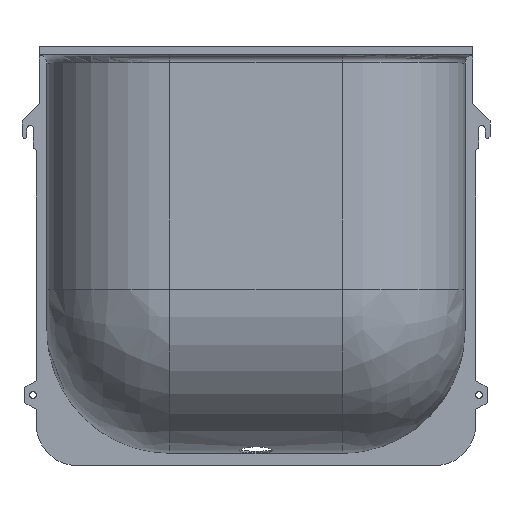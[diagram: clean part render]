
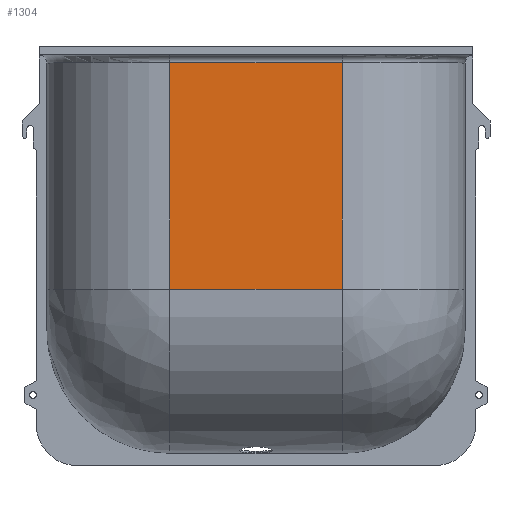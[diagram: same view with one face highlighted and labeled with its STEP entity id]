
A CAD part, top view. The second image highlights one B-rep face of the part: STEP entity #1304.
In plain terms, the highlighted planar face has unit normal (0, 0, 1).
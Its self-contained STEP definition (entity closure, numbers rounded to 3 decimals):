
#36=PLANE('',#1417);
#171=LINE('',#2193,#301);
#182=LINE('',#2234,#312);
#186=LINE('',#2293,#316);
#190=LINE('',#2344,#320);
#301=VECTOR('',#1626,420.);
#312=VECTOR('',#1661,552.);
#316=VECTOR('',#1679,420.);
#320=VECTOR('',#1687,552.);
#420=FACE_OUTER_BOUND('',#496,.T.);
#496=EDGE_LOOP('',(#1053,#1054,#1055,#1056));
#615=VERTEX_POINT('',#2177);
#619=VERTEX_POINT('',#2191);
#631=VERTEX_POINT('',#2233);
#635=VERTEX_POINT('',#2286);
#763=EDGE_CURVE('',#619,#615,#171,.T.);
#781=EDGE_CURVE('',#615,#631,#182,.T.);
#791=EDGE_CURVE('',#635,#631,#186,.T.);
#796=EDGE_CURVE('',#635,#619,#190,.T.);
#1053=ORIENTED_EDGE('',*,*,#763,.F.);
#1054=ORIENTED_EDGE('',*,*,#796,.F.);
#1055=ORIENTED_EDGE('',*,*,#791,.T.);
#1056=ORIENTED_EDGE('',*,*,#781,.F.);
#1304=ADVANCED_FACE('',(#420),#36,.T.);
#1417=AXIS2_PLACEMENT_3D('',#2345,#1688,#1689);
#1626=DIRECTION('',(1.,0.,0.));
#1661=DIRECTION('',(0.,-1.,0.));
#1679=DIRECTION('',(1.,0.,0.));
#1687=DIRECTION('',(0.,1.,0.));
#1688=DIRECTION('center_axis',(0.,0.,1.));
#1689=DIRECTION('ref_axis',(0.,-1.,0.));
#2177=CARTESIAN_POINT('',(210.,-40.,400.));
#2191=CARTESIAN_POINT('',(-210.,-40.,400.));
#2193=CARTESIAN_POINT('',(0.,-40.,400.));
#2233=CARTESIAN_POINT('',(210.,-592.,400.));
#2234=CARTESIAN_POINT('',(210.,-217.135,400.));
#2286=CARTESIAN_POINT('',(-210.,-592.,400.));
#2293=CARTESIAN_POINT('',(0.,-592.,400.));
#2344=CARTESIAN_POINT('',(-210.,-217.135,400.));
#2345=CARTESIAN_POINT('Origin',(0.,0.,400.));
